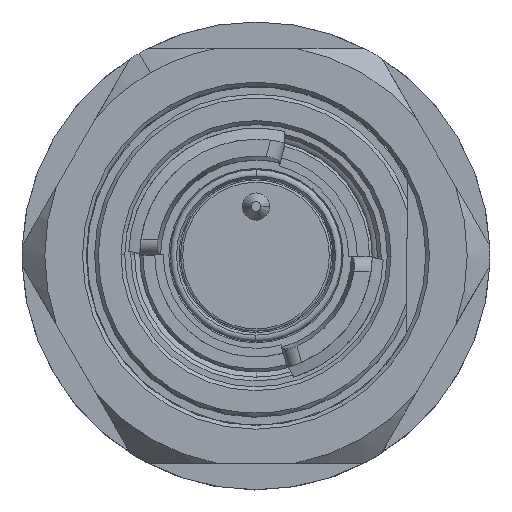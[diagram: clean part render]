
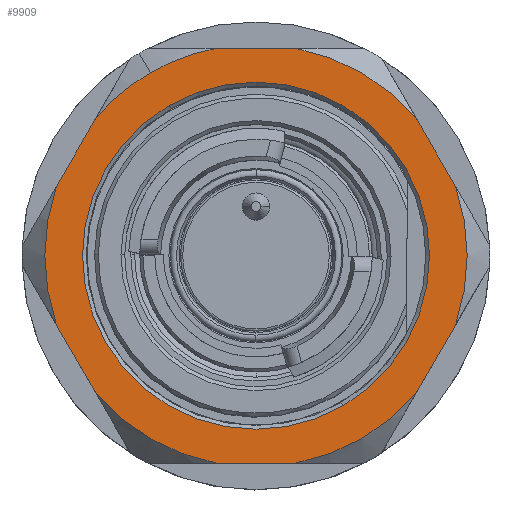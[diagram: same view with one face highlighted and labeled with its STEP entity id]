
A CAD part, top view. The second image highlights one B-rep face of the part: STEP entity #9909.
In plain terms, the highlighted planar face has unit normal (0, 0, 1).
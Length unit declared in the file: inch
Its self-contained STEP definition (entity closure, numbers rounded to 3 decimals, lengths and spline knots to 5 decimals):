
#153 = VECTOR ( 'NONE', #3760, 39.37008 ) ;
#234 = ORIENTED_EDGE ( 'NONE', *, *, #10453, .F. ) ;
#381 = VERTEX_POINT ( 'NONE', #2423 ) ;
#465 = ORIENTED_EDGE ( 'NONE', *, *, #702, .F. ) ;
#702 = EDGE_CURVE ( 'NONE', #12819, #13521, #2790, .T. ) ;
#852 = ORIENTED_EDGE ( 'NONE', *, *, #11030, .F. ) ;
#923 = EDGE_CURVE ( 'NONE', #13976, #13928, #16368, .T. ) ;
#1038 = CARTESIAN_POINT ( 'NONE',  ( 0., 0., -0.30913 ) ) ;
#1229 = CIRCLE ( 'NONE', #12701, 0.55118 ) ;
#1297 = CARTESIAN_POINT ( 'NONE',  ( -0.52066, 0.18086, -0.30913 ) ) ;
#1738 = CARTESIAN_POINT ( 'NONE',  ( -0.46881, -0.27067, -0.30913 ) ) ;
#1825 = AXIS2_PLACEMENT_3D ( 'NONE', #5048, #11958, #13384 ) ;
#1842 = DIRECTION ( 'NONE',  ( 0.5, -0.866, 0. ) ) ;
#1844 = DIRECTION ( 'NONE',  ( 1., 0., 0. ) ) ;
#1908 = DIRECTION ( 'NONE',  ( -0.5, 0.866, 0. ) ) ;
#2009 = VERTEX_POINT ( 'NONE', #13268 ) ;
#2040 = VERTEX_POINT ( 'NONE', #17129 ) ;
#2091 = DIRECTION ( 'NONE',  ( 0., 0., -1. ) ) ;
#2423 = CARTESIAN_POINT ( 'NONE',  ( 0.1037, -0.54134, -0.30913 ) ) ;
#2532 = LINE ( 'NONE', #8016, #9597 ) ;
#2561 = EDGE_CURVE ( 'NONE', #11585, #14626, #6923, .T. ) ;
#2616 = DIRECTION ( 'NONE',  ( 0.5, 0.866, 0. ) ) ;
#2697 = CIRCLE ( 'NONE', #1825, 0.55118 ) ;
#2699 = CIRCLE ( 'NONE', #3822, 0.55118 ) ;
#2790 = LINE ( 'NONE', #13542, #15225 ) ;
#2823 = DIRECTION ( 'NONE',  ( 0., 0., 1. ) ) ;
#2843 = EDGE_LOOP ( 'NONE', ( #12264, #2888 ) ) ;
#2888 = ORIENTED_EDGE ( 'NONE', *, *, #13977, .F. ) ;
#3180 = CARTESIAN_POINT ( 'NONE',  ( 0., 0., -0.30913 ) ) ;
#3418 = ORIENTED_EDGE ( 'NONE', *, *, #10433, .T. ) ;
#3556 = CARTESIAN_POINT ( 'NONE',  ( 0.52066, 0.18086, -0.30913 ) ) ;
#3760 = DIRECTION ( 'NONE',  ( 0.5, -0.866, 0. ) ) ;
#3810 = CIRCLE ( 'NONE', #4674, 0.55118 ) ;
#3822 = AXIS2_PLACEMENT_3D ( 'NONE', #14057, #8672, #1842 ) ;
#4355 = CARTESIAN_POINT ( 'NONE',  ( 0.52066, -0.18086, -0.30913 ) ) ;
#4390 = CARTESIAN_POINT ( 'NONE',  ( 0.3921, -0.54134, -0.30913 ) ) ;
#4584 = EDGE_CURVE ( 'NONE', #10396, #2040, #15235, .T. ) ;
#4674 = AXIS2_PLACEMENT_3D ( 'NONE', #1038, #14701, #15891 ) ;
#4718 = ORIENTED_EDGE ( 'NONE', *, *, #2561, .T. ) ;
#4767 = CIRCLE ( 'NONE', #10513, 0.45276 ) ;
#4793 = DIRECTION ( 'NONE',  ( 0., 0., 1. ) ) ;
#4838 = DIRECTION ( 'NONE',  ( 0., 0., 1. ) ) ;
#4963 = DIRECTION ( 'NONE',  ( 0.5, -0.866, 0. ) ) ;
#5048 = CARTESIAN_POINT ( 'NONE',  ( 0., 0., -0.30913 ) ) ;
#5400 = CARTESIAN_POINT ( 'NONE',  ( 0., 0., -0.30913 ) ) ;
#5510 = EDGE_CURVE ( 'NONE', #17402, #2040, #1229, .T. ) ;
#5521 = DIRECTION ( 'NONE',  ( 0., 0., 1. ) ) ;
#6012 = CARTESIAN_POINT ( 'NONE',  ( 0.41696, -0.36047, -0.30913 ) ) ;
#6073 = VERTEX_POINT ( 'NONE', #3556 ) ;
#6125 = EDGE_CURVE ( 'NONE', #12819, #6073, #3810, .T. ) ;
#6460 = LINE ( 'NONE', #13541, #153 ) ;
#6661 = EDGE_CURVE ( 'NONE', #17453, #2009, #2699, .T. ) ;
#6794 = CIRCLE ( 'NONE', #9949, 0.55118 ) ;
#6923 = CIRCLE ( 'NONE', #8645, 0.55118 ) ;
#7048 = ORIENTED_EDGE ( 'NONE', *, *, #15718, .T. ) ;
#7221 = DIRECTION ( 'NONE',  ( -0.5, 0.866, 0. ) ) ;
#7994 = CARTESIAN_POINT ( 'NONE',  ( -0.1037, -0.54134, -0.30913 ) ) ;
#8016 = CARTESIAN_POINT ( 'NONE',  ( -0.27276, 0.61024, -0.30913 ) ) ;
#8072 = ORIENTED_EDGE ( 'NONE', *, *, #13922, .F. ) ;
#8135 = CARTESIAN_POINT ( 'NONE',  ( 0.41696, 0.36047, -0.30913 ) ) ;
#8624 = CARTESIAN_POINT ( 'NONE',  ( 0., 0., -0.30913 ) ) ;
#8645 = AXIS2_PLACEMENT_3D ( 'NONE', #3180, #15870, #15695 ) ;
#8672 = DIRECTION ( 'NONE',  ( 0., 0., 1. ) ) ;
#9010 = FACE_OUTER_BOUND ( 'NONE', #15799, .T. ) ;
#9085 = VECTOR ( 'NONE', #1844, 39.37008 ) ;
#9367 = CARTESIAN_POINT ( 'NONE',  ( -0.41696, -0.36047, -0.30913 ) ) ;
#9519 = DIRECTION ( 'NONE',  ( -0.5, -0.866, 0. ) ) ;
#9597 = VECTOR ( 'NONE', #2616, 39.37008 ) ;
#9884 = DIRECTION ( 'NONE',  ( -1., 0., 0. ) ) ;
#9908 = DIRECTION ( 'NONE',  ( 0.5, -0.866, 0. ) ) ;
#9909 = ADVANCED_FACE ( 'NONE', ( #10266, #9010 ), #14485, .F. ) ;
#9949 = AXIS2_PLACEMENT_3D ( 'NONE', #17764, #5521, #11016 ) ;
#10236 = CIRCLE ( 'NONE', #12801, 0.55118 ) ;
#10266 = FACE_BOUND ( 'NONE', #2843, .T. ) ;
#10331 = CARTESIAN_POINT ( 'NONE',  ( -0.1037, 0.54134, -0.30913 ) ) ;
#10334 = AXIS2_PLACEMENT_3D ( 'NONE', #8624, #4838, #15646 ) ;
#10396 = VERTEX_POINT ( 'NONE', #9367 ) ;
#10433 = EDGE_CURVE ( 'NONE', #10396, #13712, #2697, .T. ) ;
#10434 = AXIS2_PLACEMENT_3D ( 'NONE', #14389, #2091, #1908 ) ;
#10453 = EDGE_CURVE ( 'NONE', #17402, #11487, #2532, .T. ) ;
#10513 = AXIS2_PLACEMENT_3D ( 'NONE', #10791, #13948, #9908 ) ;
#10791 = CARTESIAN_POINT ( 'NONE',  ( 0., 0., -0.30913 ) ) ;
#11016 = DIRECTION ( 'NONE',  ( 0.5, -0.866, 0. ) ) ;
#11030 = EDGE_CURVE ( 'NONE', #381, #13712, #16449, .T. ) ;
#11131 = LINE ( 'NONE', #17699, #9085 ) ;
#11239 = CARTESIAN_POINT ( 'NONE',  ( -0.41696, 0.36047, -0.30913 ) ) ;
#11487 = VERTEX_POINT ( 'NONE', #11239 ) ;
#11585 = VERTEX_POINT ( 'NONE', #10331 ) ;
#11792 = CARTESIAN_POINT ( 'NONE',  ( 0., 0., -0.30913 ) ) ;
#11958 = DIRECTION ( 'NONE',  ( 0., 0., 1. ) ) ;
#12047 = ORIENTED_EDGE ( 'NONE', *, *, #4584, .F. ) ;
#12264 = ORIENTED_EDGE ( 'NONE', *, *, #923, .F. ) ;
#12701 = AXIS2_PLACEMENT_3D ( 'NONE', #11792, #4793, #4963 ) ;
#12738 = VECTOR ( 'NONE', #9884, 39.37008 ) ;
#12801 = AXIS2_PLACEMENT_3D ( 'NONE', #5400, #2823, #13671 ) ;
#12819 = VERTEX_POINT ( 'NONE', #4355 ) ;
#13268 = CARTESIAN_POINT ( 'NONE',  ( 0.1037, 0.54134, -0.30913 ) ) ;
#13384 = DIRECTION ( 'NONE',  ( 0.5, -0.866, 0. ) ) ;
#13521 = VERTEX_POINT ( 'NONE', #6012 ) ;
#13541 = CARTESIAN_POINT ( 'NONE',  ( 0.46881, 0.27067, -0.30913 ) ) ;
#13542 = CARTESIAN_POINT ( 'NONE',  ( 0.66486, 0.0689, -0.30913 ) ) ;
#13635 = EDGE_CURVE ( 'NONE', #17453, #6073, #6460, .T. ) ;
#13671 = DIRECTION ( 'NONE',  ( 0.5, -0.866, 0. ) ) ;
#13712 = VERTEX_POINT ( 'NONE', #7994 ) ;
#13922 = EDGE_CURVE ( 'NONE', #11585, #2009, #11131, .T. ) ;
#13928 = VERTEX_POINT ( 'NONE', #16622 ) ;
#13948 = DIRECTION ( 'NONE',  ( 0., 0., 1. ) ) ;
#13976 = VERTEX_POINT ( 'NONE', #15025 ) ;
#13977 = EDGE_CURVE ( 'NONE', #13928, #13976, #4767, .T. ) ;
#14057 = CARTESIAN_POINT ( 'NONE',  ( 0., 0., -0.30913 ) ) ;
#14389 = CARTESIAN_POINT ( 'NONE',  ( 0.3921, 0.22638, -0.30913 ) ) ;
#14485 = PLANE ( 'NONE',  #10434 ) ;
#14626 = VERTEX_POINT ( 'NONE', #15071 ) ;
#14701 = DIRECTION ( 'NONE',  ( 0., 0., 1. ) ) ;
#15025 = CARTESIAN_POINT ( 'NONE',  ( 0.22638, -0.3921, -0.30913 ) ) ;
#15071 = CARTESIAN_POINT ( 'NONE',  ( -0.27559, 0.47734, -0.30913 ) ) ;
#15225 = VECTOR ( 'NONE', #9519, 39.37008 ) ;
#15235 = LINE ( 'NONE', #1738, #16431 ) ;
#15321 = EDGE_CURVE ( 'NONE', #381, #13521, #10236, .T. ) ;
#15421 = ORIENTED_EDGE ( 'NONE', *, *, #15321, .T. ) ;
#15454 = ORIENTED_EDGE ( 'NONE', *, *, #6661, .T. ) ;
#15510 = ORIENTED_EDGE ( 'NONE', *, *, #5510, .T. ) ;
#15533 = ORIENTED_EDGE ( 'NONE', *, *, #13635, .F. ) ;
#15646 = DIRECTION ( 'NONE',  ( 0.5, -0.866, 0. ) ) ;
#15695 = DIRECTION ( 'NONE',  ( 0.5, -0.866, 0. ) ) ;
#15718 = EDGE_CURVE ( 'NONE', #14626, #11487, #6794, .T. ) ;
#15799 = EDGE_LOOP ( 'NONE', ( #852, #15421, #465, #16038, #15533, #15454, #8072, #4718, #7048, #234, #15510, #12047, #3418 ) ) ;
#15870 = DIRECTION ( 'NONE',  ( 0., 0., 1. ) ) ;
#15891 = DIRECTION ( 'NONE',  ( 0.5, -0.866, 0. ) ) ;
#16038 = ORIENTED_EDGE ( 'NONE', *, *, #6125, .T. ) ;
#16368 = CIRCLE ( 'NONE', #10334, 0.45276 ) ;
#16431 = VECTOR ( 'NONE', #7221, 39.37008 ) ;
#16449 = LINE ( 'NONE', #4390, #12738 ) ;
#16622 = CARTESIAN_POINT ( 'NONE',  ( -0.22638, 0.3921, -0.30913 ) ) ;
#17129 = CARTESIAN_POINT ( 'NONE',  ( -0.52066, -0.18086, -0.30913 ) ) ;
#17402 = VERTEX_POINT ( 'NONE', #1297 ) ;
#17453 = VERTEX_POINT ( 'NONE', #8135 ) ;
#17699 = CARTESIAN_POINT ( 'NONE',  ( 0.3921, 0.54134, -0.30913 ) ) ;
#17764 = CARTESIAN_POINT ( 'NONE',  ( 0., 0., -0.30913 ) ) ;
